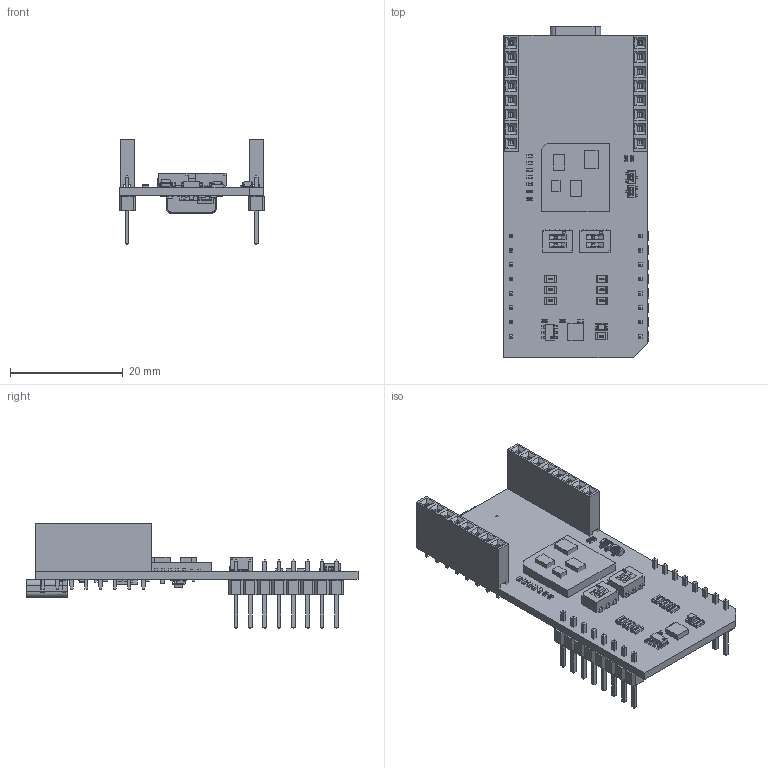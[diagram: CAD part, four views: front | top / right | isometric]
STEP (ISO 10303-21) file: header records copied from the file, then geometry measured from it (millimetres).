
FILE_DESCRIPTION(('Open CASCADE Model'),'2;1');
FILE_NAME('Open CASCADE Shape Model','2025-12-22T10:18:42',('Author'),( 'Open CASCADE'),'Open CASCADE STEP processor 7.5','Open CASCADE 7.5' ,'Unknown');
FILE_SCHEMA(('AUTOMOTIVE_DESIGN { 1 0 10303 214 1 1 1 1 }'));
Length unit declared in the file: millimetre
Products named in the file (116): PCB; Board; Open CASCADE STEP translator 7.5 2.1.1; R20; User Library-R_0402; R19; R22; SW2; CAS-D20TA; _CAS_c_D2A; _Dual_s; SW1; R16; U3; User Library-SOT23-5-2; U5; User Library-QFN-16-1; U4; 6681651472; Extruded; 6681651312; 6681651152; 6681650992; 6681650832; R18; R17; R15; R14; R13; R12; R11; R10; R9; R8; R7; R6; R5; R2; D2; User Library-SOT50P160X60-6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
Assembly tree (169 placements, depth 10):
  PCB
    Board
      Open CASCADE STEP translator 7.5 2.1.1
    R20
      User Library-R_0402
    R19
      User Library-R_0402
    R22
      User Library-R_0402
    SW2
      CAS-D20TA
        _CAS_c_D2A
        _Dual_s  x2
    SW1
      CAS-D20TA
        _CAS_c_D2A
        _Dual_s  x2
    R16
      User Library-R_0402
    U3
      User Library-SOT23-5-2
    U5
      User Library-QFN-16-1
    U4
      6681651472
        Extruded
      6681651312
        Extruded
      6681651152
        Extruded
      6681650992
        Extruded
      6681650832
        Extruded
    R18
      User Library-R_0402
    R17
      User Library-R_0402
    R15
      User Library-R_0402
    R14
      User Library-R_0402
    R13
      User Library-R_0402
    R12
      User Library-R_0402
    R11
      User Library-R_0402
    R10
      User Library-R_0402
    R9
      User Library-R_0402
    R8
      User Library-R_0402
    R7
      User Library-R_0402
    R6
      User Library-R_0402
    R5
      User Library-R_0402
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Bounding box: 25.78 x 58.77 x 18.61 mm (x, y, z)
Volume: 3426 mm3; surface area: 8235.2 mm2
Topology: 184 solids, 184 shells, 6501 faces, 16785 edges, 10755 vertices
Faces by surface type: plane 4058, bspline 1599, cylinder 728, sphere 114, torus 2
Full cylindrical faces by diameter (mm): 0.5 x2, 0.6 x2
Entity records: 93824 total; most frequent: CARTESIAN_POINT 22060, ORIENTED_EDGE 11678, DIRECTION 9373, EDGE_CURVE 5839, LINE 4185, VECTOR 4185, VERTEX_POINT 3797, PRESENTATION_STYLE_ASSIGNMENT 2878
